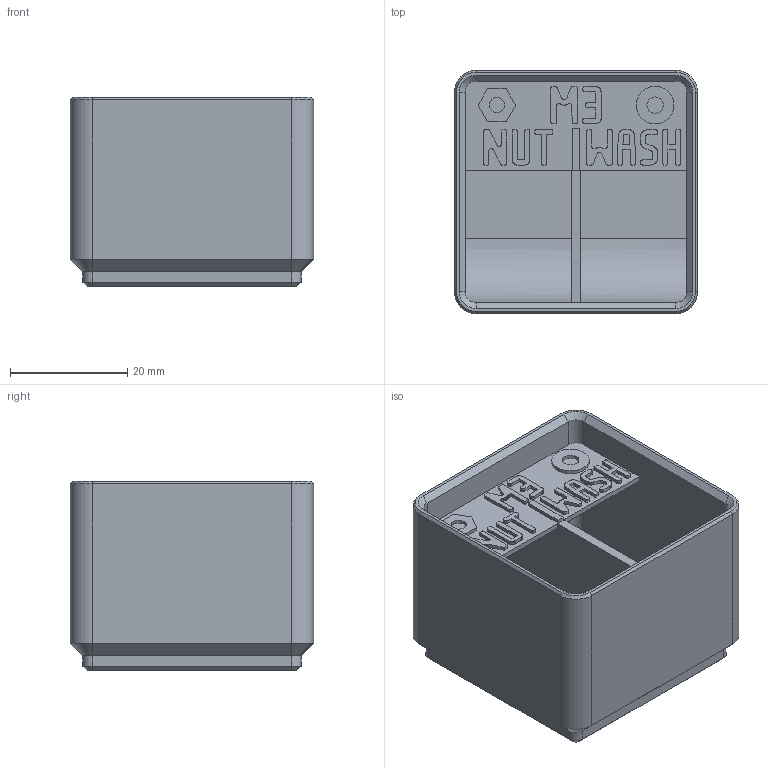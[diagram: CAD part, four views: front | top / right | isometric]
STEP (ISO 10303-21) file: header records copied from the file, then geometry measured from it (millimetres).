
FILE_DESCRIPTION(('Open CASCADE Model'),'2;1');
FILE_NAME('Open CASCADE Shape Model','2026-11-03T16:31:39',('Author'),( 'Open CASCADE'),'Open CASCADE STEP processor 8.0','build123d', 'Unknown');
FILE_SCHEMA(('AUTOMOTIVE_DESIGN { 1 0 10303 214 1 1 1 1 }'));
Products named in the file (1): COMPOUND
Bounding box: 41.5 x 41.5 x 32.4 mm (x, y, z)
Volume: 23073.3 mm3; surface area: 13803.9 mm2
Topology: 1 solids, 1 shells, 994 faces, 2888 edges, 1912 vertices
Faces by surface type: plane 959, cylinder 19, cone 16
Full cylindrical faces by diameter (mm): 2.6 x1, 2.8 x1, 6.4 x1
Entity records: 68023 total; most frequent: CARTESIAN_POINT 13867, DIRECTION 8755, LINE 6654, VECTOR 6654, ORIENTED_EDGE 5776, PCURVE 5776, DEFINITIONAL_REPRESENTATION 5776, EDGE_CURVE 2888
